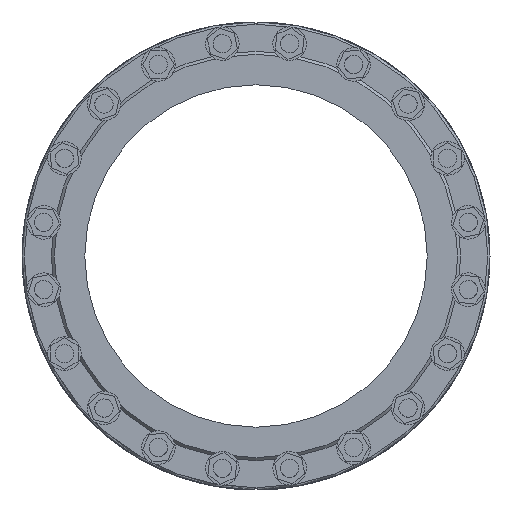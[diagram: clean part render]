
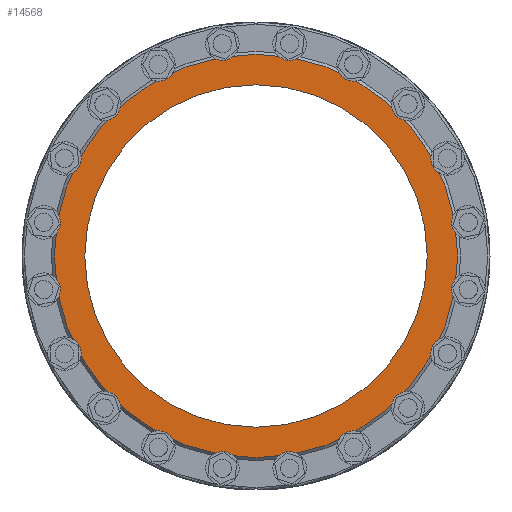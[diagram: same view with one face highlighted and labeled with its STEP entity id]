
A CAD part, left-side view. The second image highlights one B-rep face of the part: STEP entity #14568.
In plain terms, the highlighted planar face has unit normal (-1, 0, 0).
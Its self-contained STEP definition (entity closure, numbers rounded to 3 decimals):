
#1342 = DIRECTION ( 'NONE',  ( 0., 0., 1. ) ) ;
#2979 = CARTESIAN_POINT ( 'NONE',  ( -16., 0., -225. ) ) ;
#3226 = AXIS2_PLACEMENT_3D ( 'NONE', #16098, #30227, #9035 ) ;
#3269 = DIRECTION ( 'NONE',  ( -1., 0., 0. ) ) ;
#6484 = DIRECTION ( 'NONE',  ( 0., 0., -1. ) ) ;
#9035 = DIRECTION ( 'NONE',  ( 0., 0., -1. ) ) ;
#9104 = FACE_BOUND ( 'NONE', #23692, .T. ) ;
#9279 = PLANE ( 'NONE',  #33342 ) ;
#11866 = FACE_OUTER_BOUND ( 'NONE', #14921, .T. ) ;
#14568 = ADVANCED_FACE ( 'NONE', ( #9104, #11866 ), #9279, .F. ) ;
#14921 = EDGE_LOOP ( 'NONE', ( #23385 ) ) ;
#16098 = CARTESIAN_POINT ( 'NONE',  ( -16., 0., 0. ) ) ;
#16303 = EDGE_CURVE ( 'NONE', #25056, #25056, #16362, .T. ) ;
#16362 = CIRCLE ( 'NONE', #19656, 265. ) ;
#16410 = CIRCLE ( 'NONE', #3226, 225. ) ;
#16693 = DIRECTION ( 'NONE',  ( 1., 0., 0. ) ) ;
#19101 = CARTESIAN_POINT ( 'NONE',  ( -16., -225., 0. ) ) ;
#19656 = AXIS2_PLACEMENT_3D ( 'NONE', #21364, #3269, #6484 ) ;
#21364 = CARTESIAN_POINT ( 'NONE',  ( -16., 0., 0. ) ) ;
#21970 = CARTESIAN_POINT ( 'NONE',  ( -16., 0., -265. ) ) ;
#22159 = EDGE_CURVE ( 'NONE', #24179, #24179, #16410, .T. ) ;
#23385 = ORIENTED_EDGE ( 'NONE', *, *, #16303, .T. ) ;
#23692 = EDGE_LOOP ( 'NONE', ( #32174 ) ) ;
#24179 = VERTEX_POINT ( 'NONE', #2979 ) ;
#25056 = VERTEX_POINT ( 'NONE', #21970 ) ;
#30227 = DIRECTION ( 'NONE',  ( 1., 0., 0. ) ) ;
#32174 = ORIENTED_EDGE ( 'NONE', *, *, #22159, .T. ) ;
#33342 = AXIS2_PLACEMENT_3D ( 'NONE', #19101, #16693, #1342 ) ;
